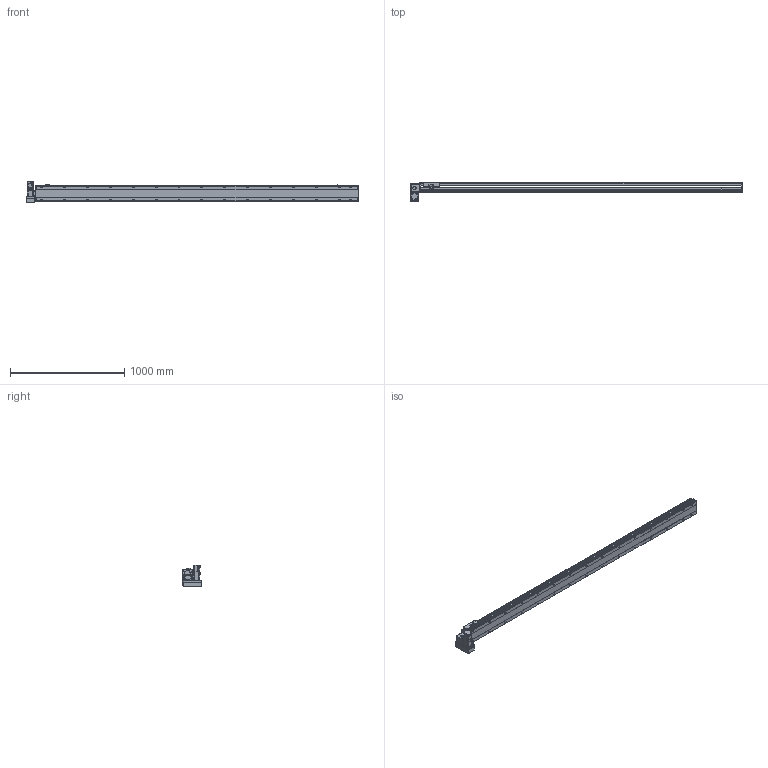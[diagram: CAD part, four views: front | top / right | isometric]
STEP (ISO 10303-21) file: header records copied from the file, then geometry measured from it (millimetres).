
FILE_DESCRIPTION(/* description */ ('STEP AP214'),/* implementation_level */ '2;1');
FILE_NAME(/* name */ 'PBS140S-P40-S2550-LD-T40-C1-N(0)',/* time_stamp */ '2022-06-09T02:29:13+02:00',/* author */ ('License CC BY-ND 4.0'),/* organization */ ('CADENAS'),/* preprocessor_version */ 'ST-DEVELOPER v18.102',/* originating_system */ 'PARTsolutions',/* authorisation */ ' ');
FILE_SCHEMA (('AUTOMOTIVE_DESIGN {1 0 10303 214 3 1 1}'));
Length unit declared in the file: millimetre
Products named in the file (7): PBS140S-P40-S2550-LD-T40-C1-N(0); PBS140S_sensor; PBS140S_plant; PBS140S_sliser; T40-p1; PBS140ST-LD_motors; PBS140S-S2550()_body
Assembly tree (8 placements, depth 2):
  PBS140S-P40-S2550-LD-T40-C1-N(0)
    PBS140S_sensor  x3
    PBS140S_plant
    PBS140S_sliser
    T40-p1
    PBS140ST-LD_motors
    PBS140S-S2550()_body
Bounding box: 2904 x 172.5 x 189.7 mm (x, y, z)
Volume: 14097067.1 mm3; surface area: 2374368.1 mm2
Topology: 8 solids, 8 shells, 1211 faces, 3191 edges, 2087 vertices
Faces by surface type: plane 744, cylinder 401, cone 56, sphere 8, torus 2
Full cylindrical faces by diameter (mm): 3.242 x4, 4 x2, 4.134 x4, 4.4 x8, 4.5 x2, 4.8 x4, 4.917 x38, 5.5 x7, 6 x2, 7 x32, 7.5 x8, 8 x12, 8.5 x4, 10.5 x30, 14 x1, 30 x2, 50 x2
Entity records: 34702 total; most frequent: CARTESIAN_POINT 6600, DIRECTION 5838, ORIENTED_EDGE 5482, EDGE_CURVE 2741, AXIS2_PLACEMENT_3D 2069, VERTEX_POINT 1921, LINE 1700, VECTOR 1700
